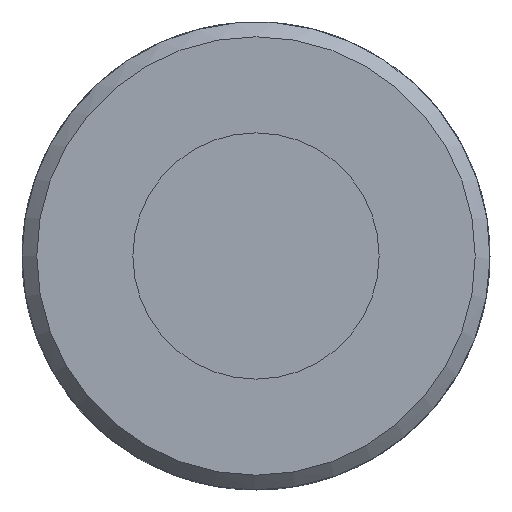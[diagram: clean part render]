
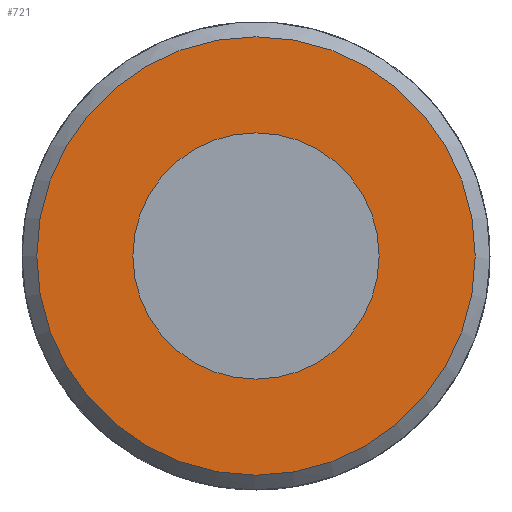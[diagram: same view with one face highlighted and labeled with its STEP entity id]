
A CAD part, front view. The second image highlights one B-rep face of the part: STEP entity #721.
In plain terms, the highlighted planar face has unit normal (0, -1, 0).
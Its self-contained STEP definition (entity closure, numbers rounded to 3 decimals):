
#40=PLANE('',#779);
#153=FACE_BOUND('',#229,.T.);
#174=FACE_OUTER_BOUND('',#228,.T.);
#228=EDGE_LOOP('',(#526));
#229=EDGE_LOOP('',(#527));
#293=CIRCLE('',#772,25.);
#295=CIRCLE('',#775,44.5);
#334=VERTEX_POINT('',#1089);
#336=VERTEX_POINT('',#1094);
#408=EDGE_CURVE('',#334,#334,#293,.T.);
#410=EDGE_CURVE('',#336,#336,#295,.T.);
#526=ORIENTED_EDGE('',*,*,#410,.F.);
#527=ORIENTED_EDGE('',*,*,#408,.T.);
#721=ADVANCED_FACE('',(#174,#153),#40,.F.);
#772=AXIS2_PLACEMENT_3D('',#1090,#871,#872);
#775=AXIS2_PLACEMENT_3D('',#1095,#877,#878);
#779=AXIS2_PLACEMENT_3D('',#1339,#889,#890);
#871=DIRECTION('center_axis',(0.,1.,0.));
#872=DIRECTION('ref_axis',(-1.,0.,0.));
#877=DIRECTION('center_axis',(0.,1.,0.));
#878=DIRECTION('ref_axis',(1.,0.,0.));
#889=DIRECTION('center_axis',(0.,1.,0.));
#890=DIRECTION('ref_axis',(0.,0.,1.));
#1089=CARTESIAN_POINT('',(25.,-118.,0.));
#1090=CARTESIAN_POINT('Origin',(0.,-118.,0.));
#1094=CARTESIAN_POINT('',(-44.5,-118.,0.));
#1095=CARTESIAN_POINT('Origin',(0.,-118.,0.));
#1339=CARTESIAN_POINT('Origin',(0.,-118.,0.));
